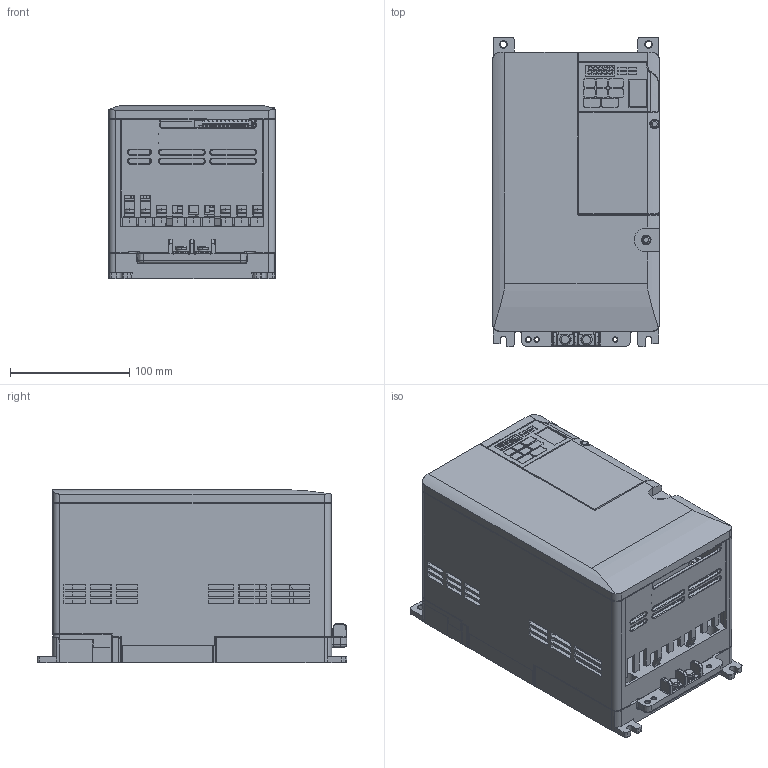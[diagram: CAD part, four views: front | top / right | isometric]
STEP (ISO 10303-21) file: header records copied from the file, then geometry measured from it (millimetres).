
FILE_DESCRIPTION((''),'2;1');
FILE_NAME('VU2A0030JAA_ASM','2010-03-25T',('jmattas'),(''),'PRO/ENGINEER BY PARAMETRIC TECHNOLOGY CORPORATION, 2009380','PRO/ENGINEER BY PARAMETRIC TECHNOLOGY CORPORATION, 2009380','');
FILE_SCHEMA(('CONFIG_CONTROL_DESIGN'));
Products named in the file (7): VU2A0030JAA_BASE; VU2A0030JAA_COVER1; VU2A0030JAA_COVER2; VU2A0030JAA_COVER3; VU2A0030JAA_COVER4; VU2A0030JAA_COVER5; VU2A0030JAA_ASM
Assembly tree (6 placements, depth 2):
  VU2A0030JAA_ASM
    VU2A0030JAA_BASE
    VU2A0030JAA_COVER1
    VU2A0030JAA_COVER2
    VU2A0030JAA_COVER3
    VU2A0030JAA_COVER4
    VU2A0030JAA_COVER5
Bounding box: 140.02 x 260 x 145.35 mm (x, y, z)
Volume: 137259.7 mm3; surface area: 554875.9 mm2
Topology: 5 solids, 9 shells, 4450 faces, 12336 edges, 8042 vertices
Faces by surface type: plane 3497, cylinder 665, extrusion 123, torus 78, cone 51, sphere 22, bspline 14
Entity records: 142876 total; most frequent: CARTESIAN_POINT 28018, ORIENTED_EDGE 24612, DIRECTION 22324, EDGE_CURVE 12313, VECTOR 10154, LINE 10031, VERTEX_POINT 8042, AXIS2_PLACEMENT_3D 6085
